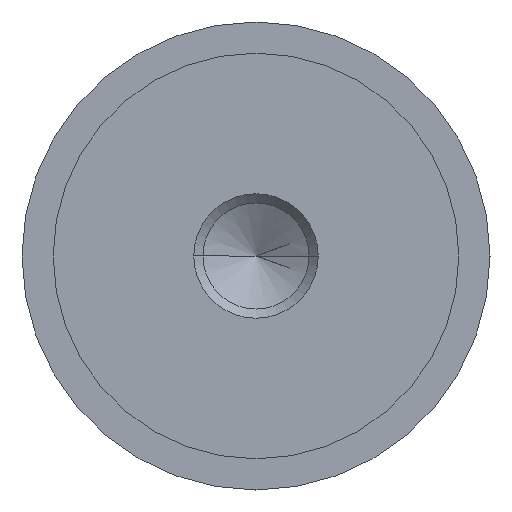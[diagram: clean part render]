
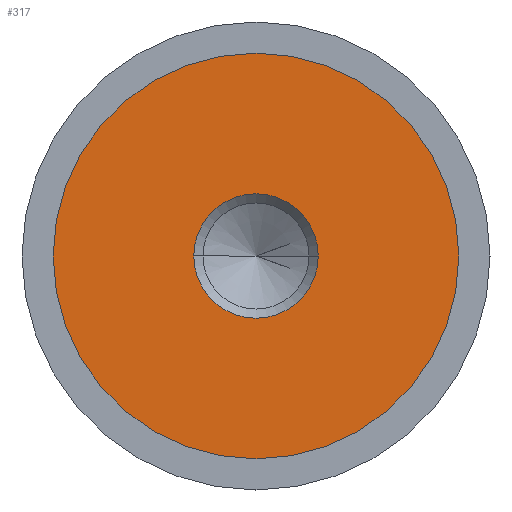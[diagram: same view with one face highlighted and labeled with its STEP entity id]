
A CAD part, left-side view. The second image highlights one B-rep face of the part: STEP entity #317.
In plain terms, the highlighted planar face has unit normal (-1, 0, 0).
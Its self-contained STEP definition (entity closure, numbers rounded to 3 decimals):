
#15 = CARTESIAN_POINT ( 'NONE',  ( -14.99, 0., -13. ) ) ;
#22 = ORIENTED_EDGE ( 'NONE', *, *, #45, .T. ) ;
#32 = VERTEX_POINT ( 'NONE', #242 ) ;
#45 = EDGE_CURVE ( 'NONE', #432, #614, #346, .T. ) ;
#46 = FACE_OUTER_BOUND ( 'NONE', #145, .T. ) ;
#68 = DIRECTION ( 'NONE',  ( -1., 0., 0. ) ) ;
#101 = AXIS2_PLACEMENT_3D ( 'NONE', #165, #467, #530 ) ;
#107 = PLANE ( 'NONE',  #101 ) ;
#109 = CARTESIAN_POINT ( 'NONE',  ( -14.99, 0., 13. ) ) ;
#134 = EDGE_CURVE ( 'NONE', #32, #519, #413, .T. ) ;
#145 = EDGE_LOOP ( 'NONE', ( #617, #22 ) ) ;
#157 = DIRECTION ( 'NONE',  ( 1., 0., 0. ) ) ;
#165 = CARTESIAN_POINT ( 'NONE',  ( -14.99, 13., 0. ) ) ;
#171 = AXIS2_PLACEMENT_3D ( 'NONE', #690, #157, #269 ) ;
#242 = CARTESIAN_POINT ( 'NONE',  ( -14.99, -3.99, 0. ) ) ;
#244 = AXIS2_PLACEMENT_3D ( 'NONE', #249, #492, #441 ) ;
#249 = CARTESIAN_POINT ( 'NONE',  ( -14.99, 0., 0. ) ) ;
#269 = DIRECTION ( 'NONE',  ( 0., 0., -1. ) ) ;
#317 = ADVANCED_FACE ( 'NONE', ( #581, #46 ), #107, .F. ) ;
#344 = EDGE_LOOP ( 'NONE', ( #403, #584 ) ) ;
#346 = CIRCLE ( 'NONE', #446, 13. ) ;
#347 = CARTESIAN_POINT ( 'NONE',  ( -14.99, 0., 0. ) ) ;
#403 = ORIENTED_EDGE ( 'NONE', *, *, #134, .T. ) ;
#413 = CIRCLE ( 'NONE', #171, 3.99 ) ;
#432 = VERTEX_POINT ( 'NONE', #15 ) ;
#435 = EDGE_CURVE ( 'NONE', #519, #32, #534, .T. ) ;
#441 = DIRECTION ( 'NONE',  ( 0., 0., -1. ) ) ;
#446 = AXIS2_PLACEMENT_3D ( 'NONE', #737, #68, #682 ) ;
#453 = DIRECTION ( 'NONE',  ( -1., 0., 0. ) ) ;
#467 = DIRECTION ( 'NONE',  ( 1., 0., 0. ) ) ;
#492 = DIRECTION ( 'NONE',  ( 1., 0., 0. ) ) ;
#519 = VERTEX_POINT ( 'NONE', #747 ) ;
#530 = DIRECTION ( 'NONE',  ( 0., 0., -1. ) ) ;
#534 = CIRCLE ( 'NONE', #244, 3.99 ) ;
#581 = FACE_BOUND ( 'NONE', #344, .T. ) ;
#584 = ORIENTED_EDGE ( 'NONE', *, *, #435, .T. ) ;
#585 = CIRCLE ( 'NONE', #667, 13. ) ;
#596 = EDGE_CURVE ( 'NONE', #614, #432, #585, .T. ) ;
#614 = VERTEX_POINT ( 'NONE', #109 ) ;
#617 = ORIENTED_EDGE ( 'NONE', *, *, #596, .T. ) ;
#667 = AXIS2_PLACEMENT_3D ( 'NONE', #347, #453, #777 ) ;
#682 = DIRECTION ( 'NONE',  ( 0., 0., 1. ) ) ;
#690 = CARTESIAN_POINT ( 'NONE',  ( -14.99, 0., 0. ) ) ;
#737 = CARTESIAN_POINT ( 'NONE',  ( -14.99, 0., 0. ) ) ;
#747 = CARTESIAN_POINT ( 'NONE',  ( -14.99, 3.99, 0. ) ) ;
#777 = DIRECTION ( 'NONE',  ( 0., 0., 1. ) ) ;
